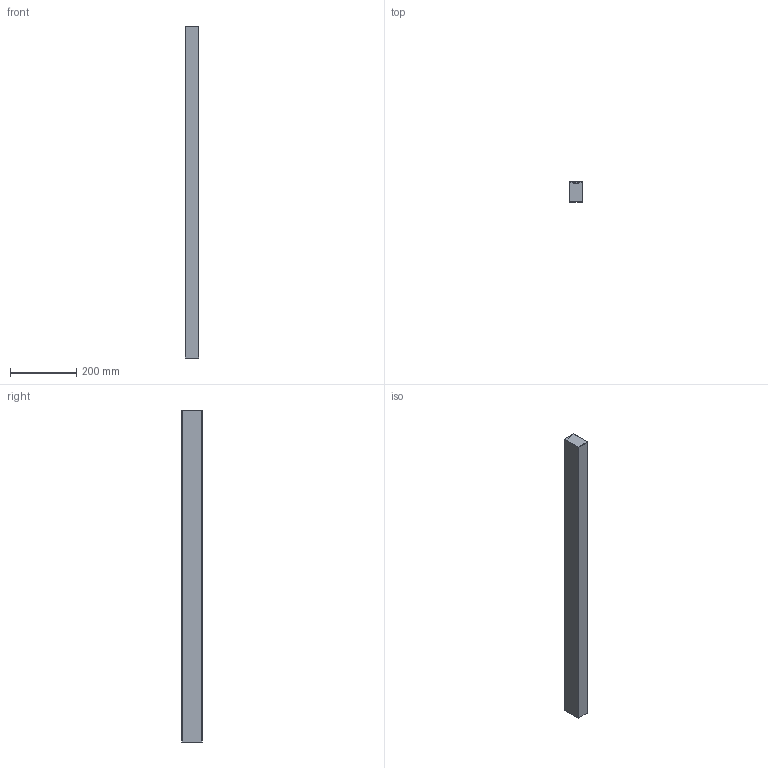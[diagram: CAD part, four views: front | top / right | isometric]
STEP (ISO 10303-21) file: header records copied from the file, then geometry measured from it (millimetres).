
FILE_DESCRIPTION(/* description */ (''),/* implementation_level */ '2;1');
FILE_NAME(/* name */ '/Users/philippe/Library/Mobile Documents/com~apple~CloudDocs/Eden Design - LL60.step',/* time_stamp */ '2021-05-19T14:15:13+02:00',/* author */ (''),/* organization */ (''),/* preprocessor_version */ 'ST-DEVELOPER v18.1',/* originating_system */ 'Autodesk Translation Framework v10.6.0.1341',/* authorisation */ '');
FILE_SCHEMA (('AUTOMOTIVE_DESIGN { 1 0 10303 214 3 1 1 }'));
Length unit declared in the file: millimetre
Products named in the file (4): ll60; profile; diffuser; cap
Assembly tree (3 placements, depth 2):
  ll60
    profile
    diffuser
    cap
Bounding box: 40.49 x 60.65 x 1001 mm (x, y, z)
Volume: 255264.4 mm3; surface area: 430906.2 mm2
Topology: 3 solids, 3 shells, 46 faces, 120 edges, 80 vertices
Faces by surface type: plane 36, cylinder 10
Entity records: 1537 total; most frequent: CARTESIAN_POINT 254, DIRECTION 248, ORIENTED_EDGE 240, EDGE_CURVE 120, LINE 100, VECTOR 100, VERTEX_POINT 80, AXIS2_PLACEMENT_3D 74
